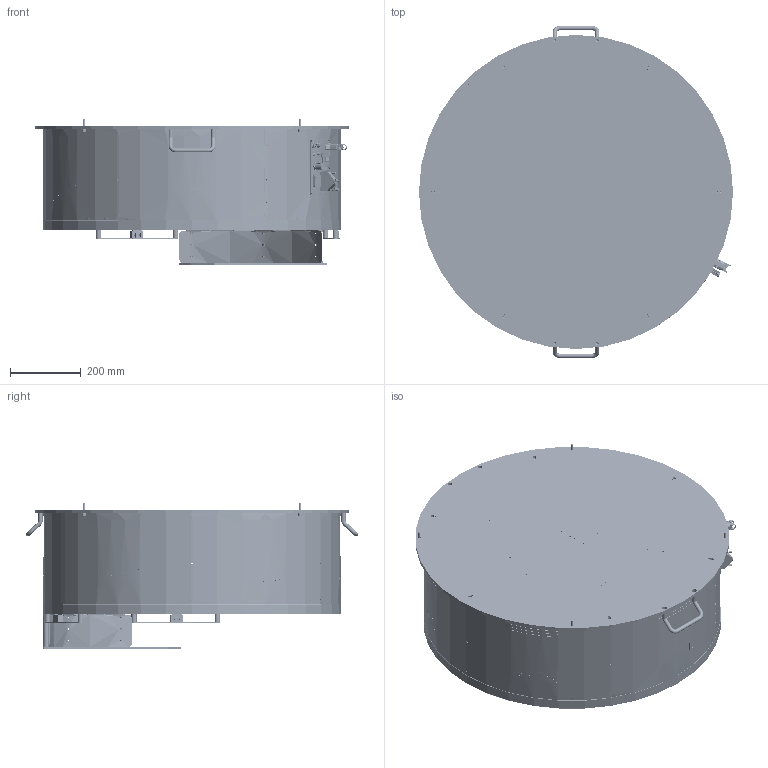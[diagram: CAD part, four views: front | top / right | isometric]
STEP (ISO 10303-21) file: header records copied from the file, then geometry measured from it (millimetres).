
FILE_DESCRIPTION (( 'STEP AP214' ), '1' );
FILE_NAME ('GM000117_FB_Flexibowl 800C V2.2.STEP', '2025-12-03T15:31:11', ( '' ), ( '' ), 'SwSTEP 2.0', 'SolidWorks 2023', '' );
FILE_SCHEMA (( 'AUTOMOTIVE_DESIGN' ));
Length unit declared in the file: millimetre
Products named in the file (80): Copia di 1^CE000322; CM000008_002; CE000463; PD005625; Copia di Led RDY_FLT^CE000326; PD006084; CE000007; CM000424; CM000686_002; PD001062_002; CE000327; CM000686; CM000008_003; CE000316; CE000030; Copia di CE000325^CE000461; CM000008_005; PD001360_FB800; PD001063; Copia di 39-01-2025^CE000463; CE000420; PD000709; CM000001; PD000043; PD001122; CE000419; CM000374; CE000013; Copia di 43025-0600^CE000461; CM000008_001; Copia di Guaina^CE000463; Copia di 39-01-2025^CE000327; CE000326; CM000008; PD001356; CM000179; CE000039; CM000920; PD006082; CE000461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
Assembly tree (111 placements, depth 3):
  CM000920
  GM000117_FB_Flexibowl 800C V2.2
    CE000327
      Copia di CE000327^CE000327
      Copia di 39-01-2025^CE000327
    CE000326
      Copia di Led RDY_FLT^CE000326
      Copia di 39-01-2045^CE000326
    CE000039
    CE000321
    CE000322
      Copia di 1^CE000322
      Copia di 2 - Copia (2)^CE000322
      Copia di 2 - Copia^CE000322  x4
    CE000461
      Copia di CE000325^CE000461
      Copia di 43025-0600^CE000461
      Copia di Guaina^CE000461
    CE000463
      Copia di connector_a-ds_25_pp-f^CE000463
      Copia di Connettore te 2 poli - Copia^CE000463
      Copia di 39-01-2025^CE000463
      Copia di 43025-1600^CE000463
      Copia di Guaina^CE000463
    CM000015  x2
      CM000015_001
      CM000015_002
    CM000424
    CM000099
    PD001086
    CM000001  x2
    PD003222  x6
    PD001569
    PD001356
    PD002027
    PD005625  x4
    PD005626  x2
    PD006083
    PD006082
    PD003221
    PD001062
      PD001062_001
      PD001062_002
      PD001062_003
    CM000374  x4
    PD001063
    PD000043  x4
    PD001123  x2
    PD001119  x2
    PD001124
    PD001122
    PD006081
    PD006084
    PD006074  x3
    PD001101
    PD001087
    PD003362
    PD000709
    PD001360_FB800
    CE000007
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Bounding box: 890 x 940.65 x 412.9 mm (x, y, z)
Volume: 14670388.6 mm3; surface area: 5247617.6 mm2
Topology: 131 solids, 150 shells, 13918 faces, 37137 edges, 24000 vertices
Faces by surface type: plane 6794, cylinder 3816, bspline 1777, cone 1162, torus 308, sphere 61
Entity records: 572664 total; most frequent: CARTESIAN_POINT 268518, ORIENTED_EDGE 67416, DIRECTION 54903, EDGE_CURVE 33910, VERTEX_POINT 22161, AXIS2_PLACEMENT_3D 19343, VECTOR 16217, LINE 16217
